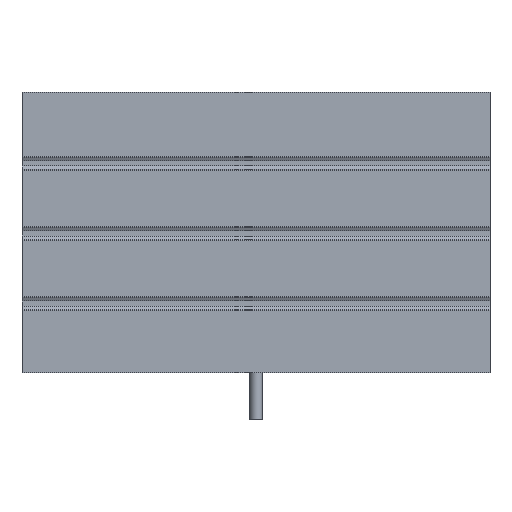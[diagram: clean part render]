
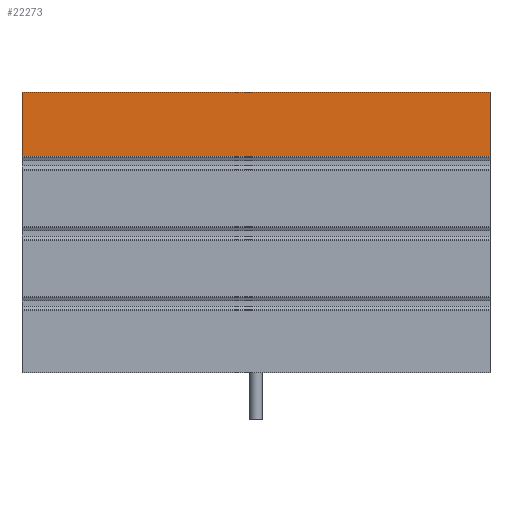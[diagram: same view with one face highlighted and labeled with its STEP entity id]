
A CAD part, front view. The second image highlights one B-rep face of the part: STEP entity #22273.
In plain terms, the highlighted planar face has unit normal (0, -1, 0).
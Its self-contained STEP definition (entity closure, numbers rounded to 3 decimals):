
#779=PLANE('',#24983);
#1800=FACE_OUTER_BOUND('',#3026,.T.);
#3026=EDGE_LOOP('',(#18457,#18458,#18459,#18460));
#4428=LINE('',#44642,#6040);
#4617=LINE('',#45021,#6229);
#4694=LINE('',#45172,#6306);
#4695=LINE('',#45173,#6307);
#6040=VECTOR('',#30466,1000.);
#6229=VECTOR('',#30657,1000.);
#6306=VECTOR('',#30740,1000.);
#6307=VECTOR('',#30741,1000.);
#9697=VERTEX_POINT('',#44639);
#9698=VERTEX_POINT('',#44641);
#9886=VERTEX_POINT('',#45018);
#9887=VERTEX_POINT('',#45020);
#12668=EDGE_CURVE('',#9697,#9698,#4428,.T.);
#12857=EDGE_CURVE('',#9887,#9886,#4617,.T.);
#12934=EDGE_CURVE('',#9698,#9886,#4694,.T.);
#12935=EDGE_CURVE('',#9697,#9887,#4695,.T.);
#18457=ORIENTED_EDGE('',*,*,#12934,.F.);
#18458=ORIENTED_EDGE('',*,*,#12668,.F.);
#18459=ORIENTED_EDGE('',*,*,#12935,.T.);
#18460=ORIENTED_EDGE('',*,*,#12857,.T.);
#22273=ADVANCED_FACE('',(#1800),#779,.F.);
#24983=AXIS2_PLACEMENT_3D('',#45171,#30738,#30739);
#30466=DIRECTION('',(0.,0.,-1.));
#30657=DIRECTION('',(0.,0.,-1.));
#30738=DIRECTION('center_axis',(0.,1.,0.));
#30739=DIRECTION('ref_axis',(0.,0.,1.));
#30740=DIRECTION('',(-1.,0.,0.));
#30741=DIRECTION('',(-1.,0.,0.));
#44639=CARTESIAN_POINT('',(300.,0.,90.));
#44641=CARTESIAN_POINT('',(300.,0.,48.94));
#44642=CARTESIAN_POINT('',(300.,0.,90.));
#45018=CARTESIAN_POINT('',(0.,0.,48.94));
#45020=CARTESIAN_POINT('',(0.,0.,90.));
#45021=CARTESIAN_POINT('',(0.,0.,90.));
#45171=CARTESIAN_POINT('Origin',(300.,0.,90.));
#45172=CARTESIAN_POINT('',(300.,0.,48.94));
#45173=CARTESIAN_POINT('',(300.,0.,90.));
